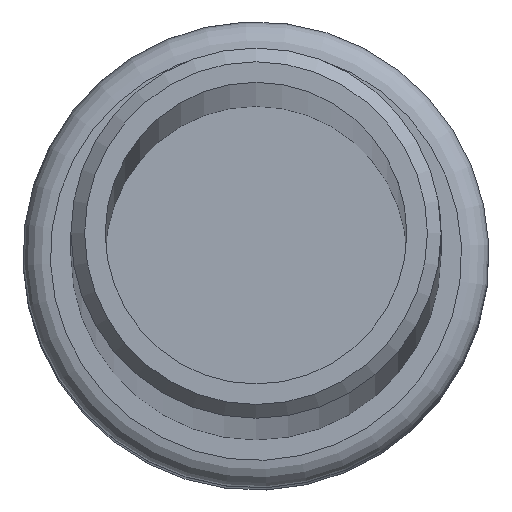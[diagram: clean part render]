
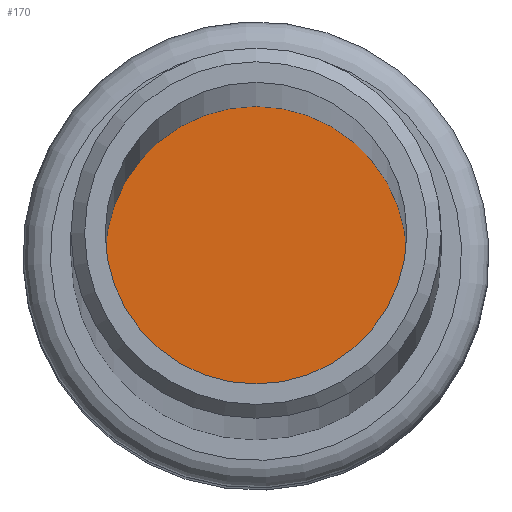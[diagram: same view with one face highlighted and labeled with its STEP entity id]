
A CAD part, top view. The second image highlights one B-rep face of the part: STEP entity #170.
In plain terms, the highlighted planar face has unit normal (0, 0, 1).
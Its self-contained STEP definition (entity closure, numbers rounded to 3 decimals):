
#33=ORIENTED_EDGE('',*,*,#63,.T.);
#63=EDGE_CURVE('',#78,#78,#93,.T.);
#78=VERTEX_POINT('',#287);
#93=CIRCLE('',#199,11.);
#106=EDGE_LOOP('',(#33));
#136=FACE_BOUND('',#106,.T.);
#166=PLANE('',#198);
#170=ADVANCED_FACE('',(#136),#166,.F.);
#198=AXIS2_PLACEMENT_3D('',#285,#228,#229);
#199=AXIS2_PLACEMENT_3D('',#286,#230,#231);
#228=DIRECTION('',(0.,0.,-1.));
#229=DIRECTION('',(-0.924,-0.383,0.));
#230=DIRECTION('',(0.,0.,1.));
#231=DIRECTION('',(1.,0.,0.));
#285=CARTESIAN_POINT('',(0.,0.,-1000.));
#286=CARTESIAN_POINT('',(0.,0.,-1000.));
#287=CARTESIAN_POINT('',(11.,0.,-1000.));
